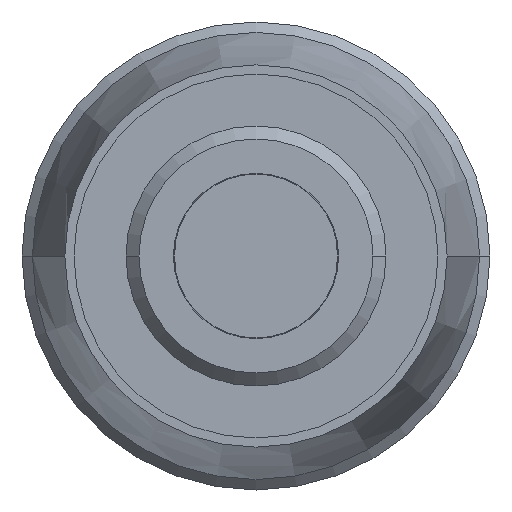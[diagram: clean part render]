
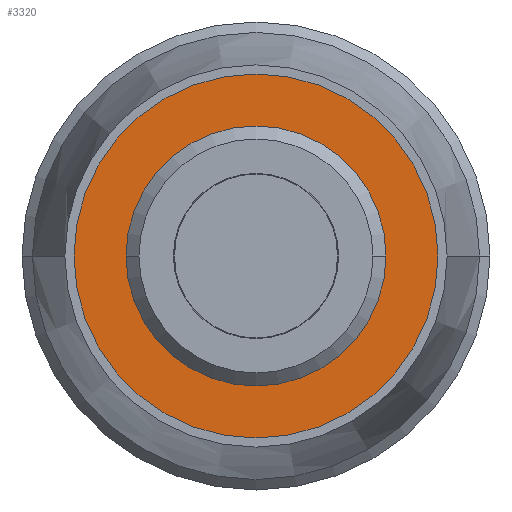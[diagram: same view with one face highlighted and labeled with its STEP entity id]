
A CAD part, left-side view. The second image highlights one B-rep face of the part: STEP entity #3320.
In plain terms, the highlighted planar face has unit normal (-1, 0, 0).
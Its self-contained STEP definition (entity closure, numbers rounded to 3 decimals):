
#2840=CARTESIAN_POINT('',(44.433,1.577,
0.));
#2850=VERTEX_POINT('',#2840);
#2930=CARTESIAN_POINT('',(44.433,15.577,0.));
#2940=VERTEX_POINT('',#2930);
#2970=CARTESIAN_POINT('',(44.433,8.577,0.));
#2980=DIRECTION('',(1.,0.,0.));
#2990=DIRECTION('',(0.,1.,0.));
#3000=AXIS2_PLACEMENT_3D('',#2970,#2980,#2990);
#3010=CIRCLE('',#3000,7.);
#3020=EDGE_CURVE('',#2850,#2940,#3010,.T.);
#3070=CARTESIAN_POINT('',(44.433,14.527,0.));
#3080=DIRECTION('',(1.,0.,0.));
#3090=DIRECTION('',(0.,-1.,0.));
#3100=AXIS2_PLACEMENT_3D('',#3070,#3080,#3090);
#3110=PLANE('',#3100);
#3120=CARTESIAN_POINT('',(44.433,8.577,0.));
#3130=DIRECTION('',(1.,0.,0.));
#3140=DIRECTION('',(0.,1.,0.));
#3150=AXIS2_PLACEMENT_3D('',#3120,#3130,#3140);
#3160=CIRCLE('',#3150,4.9);
#3170=CARTESIAN_POINT('',(44.433,13.477,0.));
#3180=VERTEX_POINT('',#3170);
#3190=CARTESIAN_POINT('',(44.433,3.677,
0.));
#3200=VERTEX_POINT('',#3190);
#3210=EDGE_CURVE('',#3180,#3200,#3160,.T.);
#3220=ORIENTED_EDGE('',*,*,#3210,.T.);
#3230=EDGE_CURVE('',#3200,#3180,#3160,.T.);
#3240=ORIENTED_EDGE('',*,*,#3230,.T.);
#3250=EDGE_LOOP('',(#3240,#3220));
#3260=FACE_BOUND('',#3250,.T.);
#3270=EDGE_CURVE('',#2940,#2850,#3010,.T.);
#3280=ORIENTED_EDGE('',*,*,#3270,.F.);
#3290=ORIENTED_EDGE('',*,*,#3020,.F.);
#3300=EDGE_LOOP('',(#3290,#3280));
#3310=FACE_OUTER_BOUND('',#3300,.T.);
#3320=ADVANCED_FACE('',(#3260,#3310),#3110,.F.);
